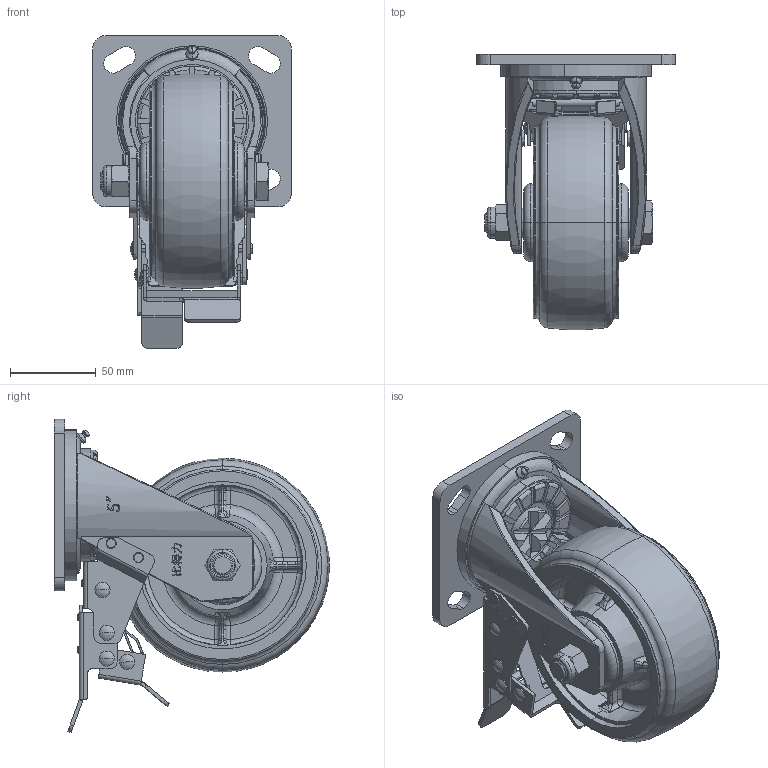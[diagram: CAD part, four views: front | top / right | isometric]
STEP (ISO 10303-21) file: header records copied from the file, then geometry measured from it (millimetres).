
FILE_DESCRIPTION (( 'STEP AP203' ), '1' );
FILE_NAME ('5渡湍价陬魂雄謫.STEP', '2023-02-20T09:41:42', ( 'amidn' ), ( '' ), 'SwSTEP 2.0', 'SolidWorks 2018', '' );
FILE_SCHEMA (( 'CONFIG_CONTROL_DESIGN' ));
Length unit declared in the file: millimetre
Products named in the file (19): 5渡笭婥倰魂雄种14; 5寸重载型活动轴圈2; 5渡笭婥倰 价陬璃11; 5渡笭婥倰 价陬璃13; 5渡笭婥倰 价陬璃14; prevailing trq nut style 1 insert fine_din_DIN EN ISO 10512 - M12x1.5 - S; 镜向5寸重载型 活动销; 5渡笭婥倰 謫; high strength hex head bolt_din_DIN 6914 - M12 x 90 x 23-S; 5渡湍价陬魂雄謫; 5渡笭婥倰 粣杶; 5渡笭婥倰魂雄种13; 5渡笭婥倰 魂雄粣; 5渡笭婥倰 魂雄种; 5渡笭婥倰 价陬璃12; 5寸重载型活动轮架; 5寸重载型活动轴圈; 5渡笭婥倰魂雄种12; 5寸重载型活动安装架
Assembly tree (21 placements, depth 2):
  5渡湍价陬魂雄謫
    5寸重载型活动安装架
    5寸重载型活动轮架
    5渡笭婥倰 謫
    5渡笭婥倰 粣杶
    high strength hex head bolt_din_DIN 6914 - M12 x 90 x 23-S
    prevailing trq nut style 1 insert fine_din_DIN EN ISO 10512 - M12x1.5 - S
    5渡笭婥倰 魂雄种  x2
    镜向5寸重载型 活动销  x2
    5渡笭婥倰 魂雄粣
    5渡笭婥倰 价陬璃11
    5渡笭婥倰 价陬璃12
    5渡笭婥倰 价陬璃13
    5渡笭婥倰魂雄种12  x2
    5渡笭婥倰魂雄种13
    5渡笭婥倰魂雄种14
    5寸重载型活动轴圈
    5寸重载型活动轴圈2
    5渡笭婥倰 价陬璃14
Bounding box: 116 x 160.38 x 182.63 mm (x, y, z)
Volume: 590671.9 mm3; surface area: 227805.5 mm2
Topology: 24 solids, 24 shells, 1651 faces, 4043 edges, 2493 vertices
Faces by surface type: plane 608, cylinder 515, bspline 205, torus 183, cone 132, sphere 8
Entity records: 62292 total; most frequent: CARTESIAN_POINT 23078, ORIENTED_EDGE 7918, DIRECTION 7614, EDGE_CURVE 3959, AXIS2_PLACEMENT_3D 2917, VERTEX_POINT 2448, LINE 1780, VECTOR 1780
